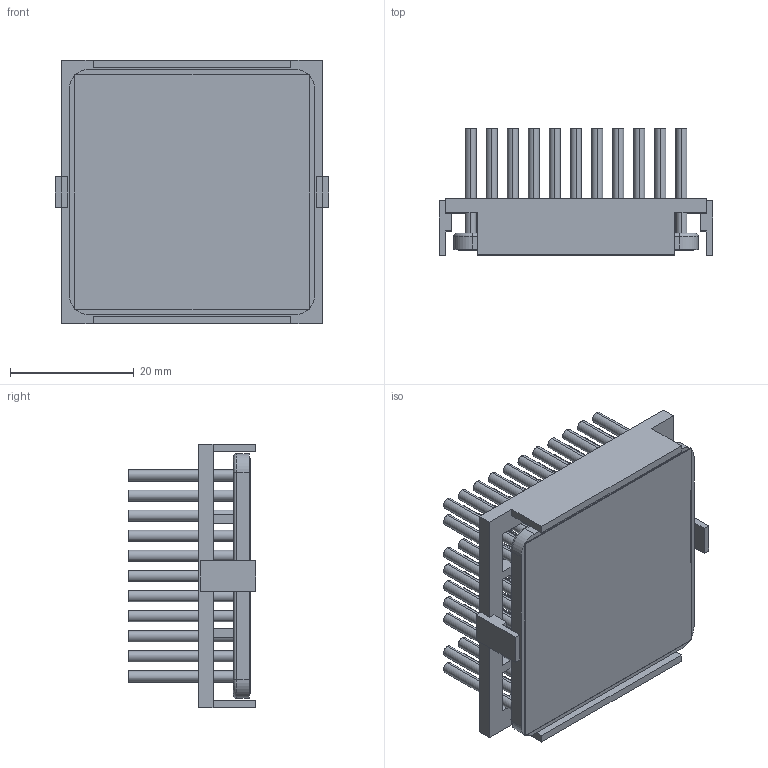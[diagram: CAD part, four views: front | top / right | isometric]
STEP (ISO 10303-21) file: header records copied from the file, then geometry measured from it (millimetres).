
FILE_DESCRIPTION (( 'STEP AP214' ), '1' );
FILE_NAME ('INM40002-20P-2.6O.STEP', '2023-02-27T17:33:06', ( '' ), ( '' ), 'SwSTEP 2.0', 'SolidWorks 2020', '' );
FILE_SCHEMA (( 'AUTOMOTIVE_DESIGN' ));
Length unit declared in the file: inch
Products named in the file (1): INM40002-20P-2.6O
Bounding box: 44.2 x 20.6 x 42.7 mm (x, y, z)
Volume: 11129 mm3; surface area: 20423.4 mm2
Topology: 3 solids, 3 shells, 421 faces, 898 edges, 596 vertices
Faces by surface type: cylinder 234, plane 183, torus 4
Entity records: 17099 total; most frequent: DIRECTION 2214, CARTESIAN_POINT 1916, ORIENTED_EDGE 1796, EDGE_CURVE 898, AXIS2_PLACEMENT_3D 894, VERTEX_POINT 596, EDGE_LOOP 536, CIRCLE 472
